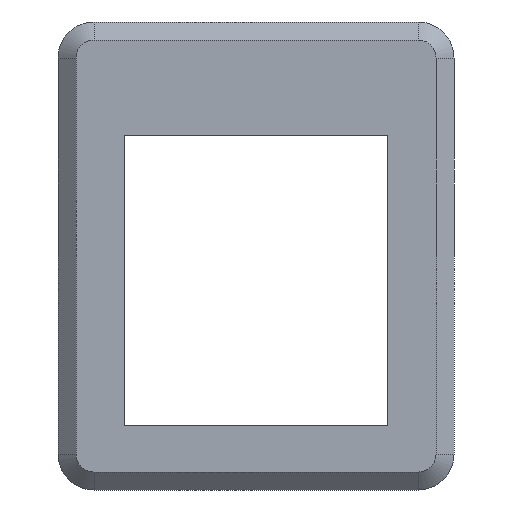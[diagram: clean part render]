
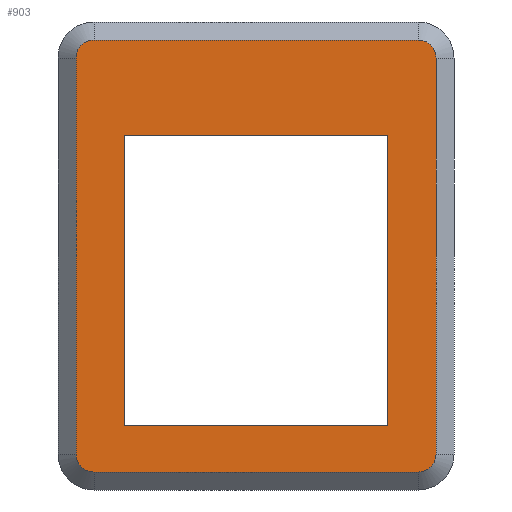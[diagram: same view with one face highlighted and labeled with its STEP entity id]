
A CAD part, front view. The second image highlights one B-rep face of the part: STEP entity #903.
In plain terms, the highlighted free-form (B-spline) face has degree [1, 1] with [2, 2] control points.
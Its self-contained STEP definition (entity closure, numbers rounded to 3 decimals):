
#59=CARTESIAN_POINT('',(7.325,0.,0.));
#60=VERTEX_POINT('',#59);
#70=CARTESIAN_POINT('',(7.325,0.,16.1));
#71=VERTEX_POINT('',#70);
#72=CARTESIAN_POINT('',(7.325,0.,16.1));
#73=CARTESIAN_POINT('',(7.325,0.,12.88));
#74=CARTESIAN_POINT('',(7.325,0.,9.66));
#75=CARTESIAN_POINT('',(7.325,0.,6.44));
#76=CARTESIAN_POINT('',(7.325,0.,3.22));
#77=CARTESIAN_POINT('',(7.325,0.,0.));
#78=B_SPLINE_CURVE_WITH_KNOTS('',5,(#72,#73,#74,#75,#76,#77),.UNSPECIFIED.,.F.,.U.,(6,6),(0.,16.1),.UNSPECIFIED.);
#79=EDGE_CURVE('',#71,#60,#78,.T.);
#221=CARTESIAN_POINT('',(-7.325,0.,16.1));
#222=VERTEX_POINT('',#221);
#232=CARTESIAN_POINT('',(-7.325,0.,0.));
#233=VERTEX_POINT('',#232);
#234=CARTESIAN_POINT('',(-7.325,0.,0.));
#235=CARTESIAN_POINT('',(-7.325,0.,3.22));
#236=CARTESIAN_POINT('',(-7.325,0.,6.44));
#237=CARTESIAN_POINT('',(-7.325,0.,9.66));
#238=CARTESIAN_POINT('',(-7.325,0.,12.88));
#239=CARTESIAN_POINT('',(-7.325,0.,16.1));
#240=B_SPLINE_CURVE_WITH_KNOTS('',5,(#234,#235,#236,#237,#238,#239),.UNSPECIFIED.,.F.,.U.,(6,6),(0.,16.1),.UNSPECIFIED.);
#241=EDGE_CURVE('',#233,#222,#240,.T.);
#273=CARTESIAN_POINT('',(9.,0.,-2.6));
#274=VERTEX_POINT('',#273);
#284=CARTESIAN_POINT('',(-9.,0.,-2.6));
#285=VERTEX_POINT('',#284);
#286=CARTESIAN_POINT('',(9.,0.,-2.6));
#287=CARTESIAN_POINT('',(5.4,0.,-2.6));
#288=CARTESIAN_POINT('',(1.8,0.,-2.6));
#289=CARTESIAN_POINT('',(-1.8,0.,-2.6));
#290=CARTESIAN_POINT('',(-5.4,0.,-2.6));
#291=CARTESIAN_POINT('',(-9.,0.,-2.6));
#292=B_SPLINE_CURVE_WITH_KNOTS('',5,(#286,#287,#288,#289,#290,#291),.UNSPECIFIED.,.F.,.U.,(6,6),(0.,18.),.UNSPECIFIED.);
#293=EDGE_CURVE('',#274,#285,#292,.T.);
#335=CARTESIAN_POINT('',(10.,0.,-1.6));
#336=VERTEX_POINT('',#335);
#346=CARTESIAN_POINT('',(10.,0.,-1.6));
#347=CARTESIAN_POINT('',(10.,0.,-1.679));
#348=CARTESIAN_POINT('',(9.992,0.,-1.757));
#349=CARTESIAN_POINT('',(9.977,0.,-1.835));
#350=CARTESIAN_POINT('',(9.931,0.,-1.986));
#351=CARTESIAN_POINT('',(9.857,0.,-2.125));
#352=CARTESIAN_POINT('',(9.813,0.,-2.191));
#353=CARTESIAN_POINT('',(9.713,0.,-2.313));
#354=CARTESIAN_POINT('',(9.591,0.,-2.413));
#355=CARTESIAN_POINT('',(9.525,0.,-2.457));
#356=CARTESIAN_POINT('',(9.386,0.,-2.531));
#357=CARTESIAN_POINT('',(9.235,0.,-2.577));
#358=CARTESIAN_POINT('',(9.157,0.,-2.592));
#359=CARTESIAN_POINT('',(9.079,0.,-2.6));
#360=CARTESIAN_POINT('',(9.,0.,-2.6));
#361=B_SPLINE_CURVE_WITH_KNOTS('',5,(#346,#347,#348,#349,#350,#351,#352,#353,#354,#355,#356,#357,#358,#359,#360),.UNSPECIFIED.,.F.,.U.,(6,3,3,3,6),(0.,0.393,0.785,1.178,1.571),.UNSPECIFIED.);
#362=EDGE_CURVE('',#336,#274,#361,.T.);
#393=CARTESIAN_POINT('',(10.,0.,20.4));
#394=VERTEX_POINT('',#393);
#404=CARTESIAN_POINT('',(10.,0.,20.4));
#405=CARTESIAN_POINT('',(10.,0.,16.));
#406=CARTESIAN_POINT('',(10.,0.,11.6));
#407=CARTESIAN_POINT('',(10.,0.,7.2));
#408=CARTESIAN_POINT('',(10.,0.,2.8));
#409=CARTESIAN_POINT('',(10.,0.,-1.6));
#410=B_SPLINE_CURVE_WITH_KNOTS('',5,(#404,#405,#406,#407,#408,#409),.UNSPECIFIED.,.F.,.U.,(6,6),(0.,22.),.UNSPECIFIED.);
#411=EDGE_CURVE('',#394,#336,#410,.T.);
#443=CARTESIAN_POINT('',(9.,0.,21.4));
#444=VERTEX_POINT('',#443);
#454=CARTESIAN_POINT('',(9.,0.,21.4));
#455=CARTESIAN_POINT('',(9.079,0.,21.4));
#456=CARTESIAN_POINT('',(9.157,0.,21.392));
#457=CARTESIAN_POINT('',(9.235,0.,21.377));
#458=CARTESIAN_POINT('',(9.386,0.,21.331));
#459=CARTESIAN_POINT('',(9.525,0.,21.257));
#460=CARTESIAN_POINT('',(9.591,0.,21.213));
#461=CARTESIAN_POINT('',(9.713,0.,21.113));
#462=CARTESIAN_POINT('',(9.813,0.,20.991));
#463=CARTESIAN_POINT('',(9.857,0.,20.925));
#464=CARTESIAN_POINT('',(9.931,0.,20.786));
#465=CARTESIAN_POINT('',(9.977,0.,20.635));
#466=CARTESIAN_POINT('',(9.992,0.,20.557));
#467=CARTESIAN_POINT('',(10.,0.,20.479));
#468=CARTESIAN_POINT('',(10.,0.,20.4));
#469=B_SPLINE_CURVE_WITH_KNOTS('',5,(#454,#455,#456,#457,#458,#459,#460,#461,#462,#463,#464,#465,#466,#467,#468),.UNSPECIFIED.,.F.,.U.,(6,3,3,3,6),(0.,0.393,0.785,1.178,1.571),.UNSPECIFIED.);
#470=EDGE_CURVE('',#444,#394,#469,.T.);
#501=CARTESIAN_POINT('',(-9.,0.,21.4));
#502=VERTEX_POINT('',#501);
#512=CARTESIAN_POINT('',(-9.,0.,21.4));
#513=CARTESIAN_POINT('',(-5.4,0.,21.4));
#514=CARTESIAN_POINT('',(-1.8,0.,21.4));
#515=CARTESIAN_POINT('',(1.8,0.,21.4));
#516=CARTESIAN_POINT('',(5.4,0.,21.4));
#517=CARTESIAN_POINT('',(9.,0.,21.4));
#518=B_SPLINE_CURVE_WITH_KNOTS('',5,(#512,#513,#514,#515,#516,#517),.UNSPECIFIED.,.F.,.U.,(6,6),(0.,18.),.UNSPECIFIED.);
#519=EDGE_CURVE('',#502,#444,#518,.T.);
#551=CARTESIAN_POINT('',(-10.,0.,20.4));
#552=VERTEX_POINT('',#551);
#562=CARTESIAN_POINT('',(-10.,0.,20.4));
#563=CARTESIAN_POINT('',(-10.,0.,20.479));
#564=CARTESIAN_POINT('',(-9.992,0.,20.557));
#565=CARTESIAN_POINT('',(-9.977,0.,20.635));
#566=CARTESIAN_POINT('',(-9.931,0.,20.786));
#567=CARTESIAN_POINT('',(-9.857,0.,20.925));
#568=CARTESIAN_POINT('',(-9.813,0.,20.991));
#569=CARTESIAN_POINT('',(-9.713,0.,21.113));
#570=CARTESIAN_POINT('',(-9.591,0.,21.213));
#571=CARTESIAN_POINT('',(-9.525,0.,21.257));
#572=CARTESIAN_POINT('',(-9.386,0.,21.331));
#573=CARTESIAN_POINT('',(-9.235,0.,21.377));
#574=CARTESIAN_POINT('',(-9.157,0.,21.392));
#575=CARTESIAN_POINT('',(-9.079,0.,21.4));
#576=CARTESIAN_POINT('',(-9.,0.,21.4));
#577=B_SPLINE_CURVE_WITH_KNOTS('',5,(#562,#563,#564,#565,#566,#567,#568,#569,#570,#571,#572,#573,#574,#575,#576),.UNSPECIFIED.,.F.,.U.,(6,3,3,3,6),(0.,0.393,0.785,1.178,1.571),.UNSPECIFIED.);
#578=EDGE_CURVE('',#552,#502,#577,.T.);
#609=CARTESIAN_POINT('',(-10.,0.,-1.6));
#610=VERTEX_POINT('',#609);
#620=CARTESIAN_POINT('',(-10.,0.,-1.6));
#621=CARTESIAN_POINT('',(-10.,0.,2.8));
#622=CARTESIAN_POINT('',(-10.,0.,7.2));
#623=CARTESIAN_POINT('',(-10.,0.,11.6));
#624=CARTESIAN_POINT('',(-10.,0.,16.));
#625=CARTESIAN_POINT('',(-10.,0.,20.4));
#626=B_SPLINE_CURVE_WITH_KNOTS('',5,(#620,#621,#622,#623,#624,#625),.UNSPECIFIED.,.F.,.U.,(6,6),(0.,22.),.UNSPECIFIED.);
#627=EDGE_CURVE('',#610,#552,#626,.T.);
#658=CARTESIAN_POINT('',(-9.,0.,-2.6));
#659=CARTESIAN_POINT('',(-9.079,0.,-2.6));
#660=CARTESIAN_POINT('',(-9.157,0.,-2.592));
#661=CARTESIAN_POINT('',(-9.235,0.,-2.577));
#662=CARTESIAN_POINT('',(-9.386,0.,-2.531));
#663=CARTESIAN_POINT('',(-9.525,0.,-2.457));
#664=CARTESIAN_POINT('',(-9.591,0.,-2.413));
#665=CARTESIAN_POINT('',(-9.713,0.,-2.313));
#666=CARTESIAN_POINT('',(-9.813,0.,-2.191));
#667=CARTESIAN_POINT('',(-9.857,0.,-2.125));
#668=CARTESIAN_POINT('',(-9.931,0.,-1.986));
#669=CARTESIAN_POINT('',(-9.977,0.,-1.835));
#670=CARTESIAN_POINT('',(-9.992,0.,-1.757));
#671=CARTESIAN_POINT('',(-10.,0.,-1.679));
#672=CARTESIAN_POINT('',(-10.,0.,-1.6));
#673=B_SPLINE_CURVE_WITH_KNOTS('',5,(#658,#659,#660,#661,#662,#663,#664,#665,#666,#667,#668,#669,#670,#671,#672),.UNSPECIFIED.,.F.,.U.,(6,3,3,3,6),(0.,0.393,0.785,1.178,1.571),.UNSPECIFIED.);
#674=EDGE_CURVE('',#285,#610,#673,.T.);
#866=CARTESIAN_POINT('',(-10.,0.,-2.6));
#867=CARTESIAN_POINT('',(10.,0.,-2.6));
#868=CARTESIAN_POINT('',(-10.,0.,21.4));
#869=CARTESIAN_POINT('',(10.,0.,21.4));
#870=B_SPLINE_SURFACE_WITH_KNOTS('',1,1,((#866,#867),(#868,#869)),.PLANE_SURF.,.F.,.F.,.U.,(2,2),(2,2),(0.,1.2),(0.,1.),.UNSPECIFIED.);
#871=ORIENTED_EDGE('',*,*,#674,.T.);
#872=ORIENTED_EDGE('',*,*,#627,.T.);
#873=ORIENTED_EDGE('',*,*,#578,.T.);
#874=ORIENTED_EDGE('',*,*,#519,.T.);
#875=ORIENTED_EDGE('',*,*,#470,.T.);
#876=ORIENTED_EDGE('',*,*,#411,.T.);
#877=ORIENTED_EDGE('',*,*,#362,.T.);
#878=ORIENTED_EDGE('',*,*,#293,.T.);
#879=EDGE_LOOP('',(#871,#872,#873,#874,#875,#876,#877,#878));
#880=FACE_OUTER_BOUND('',#879,.F.);
#881=CARTESIAN_POINT('',(7.325,0.,0.));
#882=CARTESIAN_POINT('',(4.395,0.,0.));
#883=CARTESIAN_POINT('',(1.465,0.,0.));
#884=CARTESIAN_POINT('',(-1.465,0.,0.));
#885=CARTESIAN_POINT('',(-4.395,0.,0.));
#886=CARTESIAN_POINT('',(-7.325,0.,0.));
#887=B_SPLINE_CURVE_WITH_KNOTS('',5,(#881,#882,#883,#884,#885,#886),.UNSPECIFIED.,.F.,.U.,(6,6),(0.,14.65),.UNSPECIFIED.);
#888=EDGE_CURVE('',#60,#233,#887,.T.);
#889=ORIENTED_EDGE('',*,*,#888,.F.);
#890=ORIENTED_EDGE('',*,*,#79,.F.);
#891=CARTESIAN_POINT('',(-7.325,0.,16.1));
#892=CARTESIAN_POINT('',(-4.395,0.,16.1));
#893=CARTESIAN_POINT('',(-1.465,0.,16.1));
#894=CARTESIAN_POINT('',(1.465,0.,16.1));
#895=CARTESIAN_POINT('',(4.395,0.,16.1));
#896=CARTESIAN_POINT('',(7.325,0.,16.1));
#897=B_SPLINE_CURVE_WITH_KNOTS('',5,(#891,#892,#893,#894,#895,#896),.UNSPECIFIED.,.F.,.U.,(6,6),(0.,14.65),.UNSPECIFIED.);
#898=EDGE_CURVE('',#222,#71,#897,.T.);
#899=ORIENTED_EDGE('',*,*,#898,.F.);
#900=ORIENTED_EDGE('',*,*,#241,.F.);
#901=EDGE_LOOP('',(#889,#890,#899,#900));
#902=FACE_BOUND('',#901,.F.);
#903=ADVANCED_FACE('',(#880,#902),#870,.F.);
